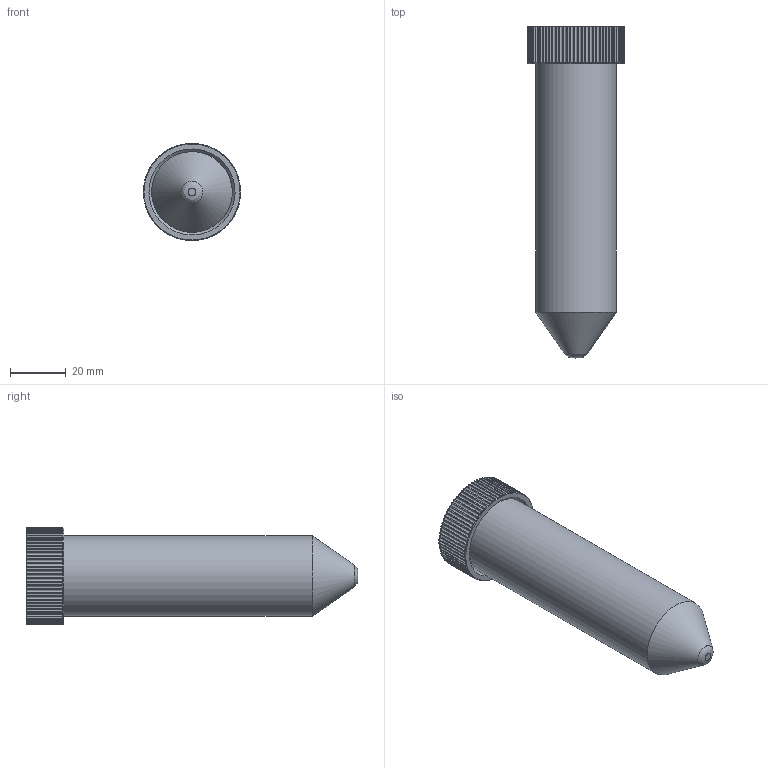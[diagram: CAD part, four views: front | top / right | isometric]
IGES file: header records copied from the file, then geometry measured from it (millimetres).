
Global section: file name: Tubo de muestra para experimento 50ml; native system: Autodesk Inventor 2022; preprocessor: unknown; author: Juan David; date: 20220410.110850; units: millimetre
Bounding box: 35 x 119.5 x 34.99 mm (x, y, z)
Volume: 17245.1 mm3; surface area: 24530.2 mm2
Topology: 2 solids, 2 shells, 175 faces, 508 edges, 339 vertices
Faces by surface type: bspline 175
